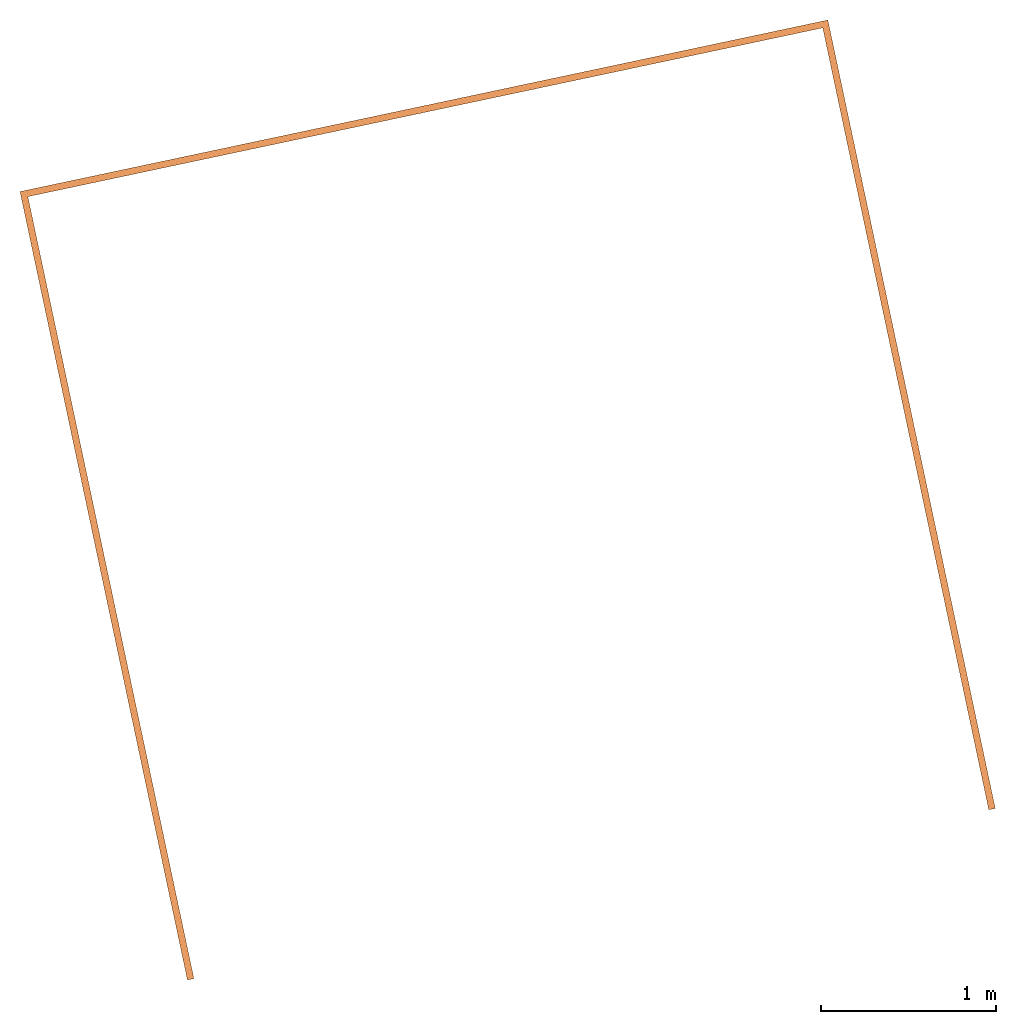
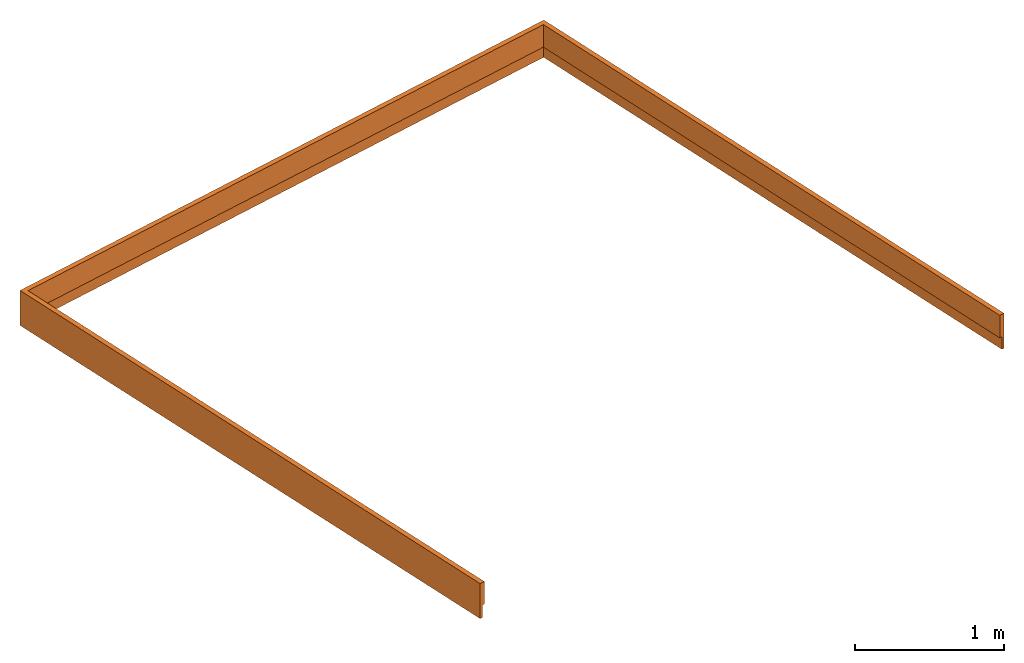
# One storey: 1 proxy.
"""IFC2X3 building model written with IfcOpenShell, lengths in centimetres."""

from ifc_helpers import new_model, entity, si_unit, converted_unit, derived_unit, direction, frame, origin, place, context, subcontext, project, spatial, faceted_brep, type_object, element, save


model = new_model("IFC2X3")

# Units and contexts
model_context = context("Model", 3, precision=0.001, world=origin(), true_north=direction((6.12303176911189e-17, 1.0)))
body_context = subcontext(model_context, "Body", "Model", "MODEL_VIEW")
ifc_project = project(units=[si_unit("LENGTHUNIT", "METRE", prefix="CENTI"), si_unit("AREAUNIT", "SQUARE_METRE"), si_unit("VOLUMEUNIT", "CUBIC_METRE"), converted_unit("PLANEANGLEUNIT", "DEGREE", entity("IfcRatioMeasure", 0.0174532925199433), si_unit("PLANEANGLEUNIT", "RADIAN"), dimensions=[0, 0, 0, 0, 0, 0, 0]), si_unit("MASSUNIT", "GRAM", prefix="KILO"), derived_unit("MASSDENSITYUNIT", [(si_unit("MASSUNIT", "GRAM", prefix="KILO"), 1), (si_unit("LENGTHUNIT", "METRE"), -3)]), derived_unit("IONCONCENTRATIONUNIT", [(si_unit("MASSUNIT", "GRAM", prefix="KILO"), 1), (si_unit("LENGTHUNIT", "METRE"), -3)]), derived_unit("MOMENTOFINERTIAUNIT", [(si_unit("LENGTHUNIT", "METRE"), 4)]), si_unit("TIMEUNIT", "SECOND"), si_unit("FREQUENCYUNIT", "HERTZ"), si_unit("THERMODYNAMICTEMPERATUREUNIT", "DEGREE_CELSIUS"), derived_unit("THERMALTRANSMITTANCEUNIT", [(si_unit("MASSUNIT", "GRAM", prefix="KILO"), 1), (si_unit("THERMODYNAMICTEMPERATUREUNIT", "KELVIN"), -1), (si_unit("TIMEUNIT", "SECOND"), -3)]), derived_unit("THERMALCONDUCTANCEUNIT", [(si_unit("MASSUNIT", "GRAM", prefix="KILO"), 1), (si_unit("THERMODYNAMICTEMPERATUREUNIT", "KELVIN"), -1), (si_unit("TIMEUNIT", "SECOND"), -3), (si_unit("LENGTHUNIT", "METRE"), 1)]), derived_unit("VOLUMETRICFLOWRATEUNIT", [(si_unit("LENGTHUNIT", "METRE"), 3), (si_unit("TIMEUNIT", "SECOND"), -1)]), derived_unit("MASSFLOWRATEUNIT", [(si_unit("MASSUNIT", "GRAM", prefix="KILO"), 1), (si_unit("TIMEUNIT", "SECOND"), -1)]), derived_unit("ROTATIONALFREQUENCYUNIT", [(si_unit("TIMEUNIT", "SECOND"), -1)]), si_unit("ELECTRICCURRENTUNIT", "AMPERE"), si_unit("ELECTRICVOLTAGEUNIT", "VOLT"), si_unit("POWERUNIT", "WATT"), si_unit("FORCEUNIT", "NEWTON", prefix="KILO"), si_unit("ILLUMINANCEUNIT", "LUX"), si_unit("LUMINOUSFLUXUNIT", "LUMEN"), si_unit("LUMINOUSINTENSITYUNIT", "CANDELA"), derived_unit("USERDEFINED", [(si_unit("MASSUNIT", "GRAM", prefix="KILO"), -1), (si_unit("LENGTHUNIT", "METRE"), -2), (si_unit("TIMEUNIT", "SECOND"), 3), (si_unit("LUMINOUSFLUXUNIT", "LUMEN"), 1)]), derived_unit("USERDEFINED", [(si_unit("MASSUNIT", "GRAM", prefix="KILO"), 1), (si_unit("TIMEUNIT", "SECOND"), -3), (si_unit("LENGTHUNIT", "METRE"), 3), (si_unit("ELECTRICCURRENTUNIT", "AMPERE"), -2)]), derived_unit("SOUNDPOWERUNIT", [(si_unit("MASSUNIT", "GRAM", prefix="KILO"), 1), (si_unit("TIMEUNIT", "SECOND"), -3), (si_unit("LENGTHUNIT", "METRE"), 2)]), derived_unit("SOUNDPRESSUREUNIT", [(si_unit("MASSUNIT", "GRAM", prefix="KILO"), 1), (si_unit("LENGTHUNIT", "METRE"), -1), (si_unit("TIMEUNIT", "SECOND"), -2)]), derived_unit("LINEARVELOCITYUNIT", [(si_unit("LENGTHUNIT", "METRE"), 1), (si_unit("TIMEUNIT", "SECOND"), -1)]), si_unit("PRESSUREUNIT", "PASCAL"), derived_unit("USERDEFINED", [(si_unit("MASSUNIT", "GRAM", prefix="KILO"), 1), (si_unit("LENGTHUNIT", "METRE"), -2), (si_unit("TIMEUNIT", "SECOND"), -2)]), derived_unit("LINEARFORCEUNIT", [(si_unit("MASSUNIT", "GRAM", prefix="KILO"), 1), (si_unit("TIMEUNIT", "SECOND"), -2)]), derived_unit("PLANARFORCEUNIT", [(si_unit("MASSUNIT", "GRAM", prefix="KILO"), 1), (si_unit("LENGTHUNIT", "METRE"), -1), (si_unit("TIMEUNIT", "SECOND"), -2)]), derived_unit("SPECIFICHEATCAPACITYUNIT", [(si_unit("THERMODYNAMICTEMPERATUREUNIT", "KELVIN"), -1), (si_unit("LENGTHUNIT", "METRE"), 2), (si_unit("TIMEUNIT", "SECOND"), -2)]), derived_unit("HEATINGVALUEUNIT", [(si_unit("LENGTHUNIT", "METRE"), 2), (si_unit("TIMEUNIT", "SECOND"), -2)]), derived_unit("VAPORPERMEABILITYUNIT", [(si_unit("LENGTHUNIT", "METRE"), -1), (si_unit("TIMEUNIT", "SECOND"), 1)]), derived_unit("DYNAMICVISCOSITYUNIT", [(si_unit("MASSUNIT", "GRAM", prefix="KILO"), 1), (si_unit("TIMEUNIT", "SECOND"), -1), (si_unit("LENGTHUNIT", "METRE"), -1)]), derived_unit("THERMALEXPANSIONCOEFFICIENTUNIT", [(si_unit("THERMODYNAMICTEMPERATUREUNIT", "KELVIN"), -1)]), derived_unit("MODULUSOFELASTICITYUNIT", [(si_unit("MASSUNIT", "GRAM", prefix="KILO"), 1), (si_unit("LENGTHUNIT", "METRE"), -1), (si_unit("TIMEUNIT", "SECOND"), -2)]), derived_unit("ISOTHERMALMOISTURECAPACITYUNIT", [(si_unit("LENGTHUNIT", "METRE"), 3), (si_unit("MASSUNIT", "GRAM", prefix="KILO"), -1)]), derived_unit("MOISTUREDIFFUSIVITYUNIT", [(si_unit("TIMEUNIT", "SECOND"), -1), (si_unit("LENGTHUNIT", "METRE"), 2)])], contexts=[model_context])

# Site, building, storey
site_placement = place(None, frame((14083.8920177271, -6853.25409548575, 6900.0), z_axis=(0.0, 0.0, 1.0), x_axis=(0.978188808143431, 0.207717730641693, 0.0)))
site = spatial("IfcSite", under=ifc_project, at=site_placement, Name="Surface", CompositionType="ELEMENT")
building_placement = place(site_placement, origin())
building = spatial("IfcBuilding", under=site, at=building_placement, CompositionType="ELEMENT")
storey_placement = place(building_placement, frame((0.0, 0.0, 522.0)))
storey = spatial("IfcBuildingStorey", under=building, at=storey_placement, Name="***R+2 (SD)***", CompositionType="ELEMENT", Elevation=522.000000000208)

# Proxy
building_element_proxy_type = type_object("IfcBuildingElementProxyType", Name="Bord de toiture:Profil Ardoise", PredefinedType="NOTDEFINED")
proxy_placement = place(storey_placement, frame((-7568.79714756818, 15284.1673447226, -7.95125050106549)))
element("IfcBuildingElementProxy", 1, at=proxy_placement, inside=storey, type_object=building_element_proxy_type, Name="Bord de toiture:Profil Ardoise", ObjectType="Bord de toiture:Profil Ardoise", context=body_context, shape_type="Brep", body=[
    faceted_brep([(468.042004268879, 0.0, 28.6), (468.042004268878, 0.0, 10.2), (469.942004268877, 0.0, 10.2), (469.942004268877, 0.0, 0.0), (471.842004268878, 0.0, 0.0), (471.842004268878, 0.0, 28.6), (471.842004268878, 460.499999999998, 28.6), (468.04200426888, 456.700000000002, 28.6), (471.842004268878, 460.500000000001, 0.0), (469.942004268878, 458.6, 0.0), (469.942004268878, 458.6, 10.2), (468.042004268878, 456.699999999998, 10.2), (0.0, 460.500000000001, 28.6), (3.79999999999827, 456.700000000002, 28.6), (0.0, 460.500000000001, 0.0), (1.90000000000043, 458.6, 0.0), (1.89999999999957, 458.6, 10.2), (3.80000000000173, 456.699999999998, 10.2), (3.79999999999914, 0.0, 28.6), (0.0, 0.0, 28.6), (0.0, 0.0, 0.0), (1.8999999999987, 0.0, 0.0), (1.8999999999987, 0.0, 10.2), (3.79999999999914, 0.0, 10.2)], [[[0, 1, 2, 3, 4, 5]], [[6, 7, 0, 5]], [[8, 6, 5, 4]], [[9, 8, 4, 3]], [[10, 9, 3, 2]], [[11, 10, 2, 1]], [[7, 11, 1, 0]], [[12, 13, 7, 6]], [[14, 12, 6, 8]], [[15, 14, 8, 9]], [[16, 15, 9, 10]], [[17, 16, 10, 11]], [[13, 17, 11, 7]], [[18, 19, 20, 21, 22, 23]], [[19, 18, 13, 12]], [[20, 19, 12, 14]], [[21, 20, 14, 15]], [[22, 21, 15, 16]], [[23, 22, 16, 17]], [[18, 23, 17, 13]]]),
])

save(model, "model.ifc")
